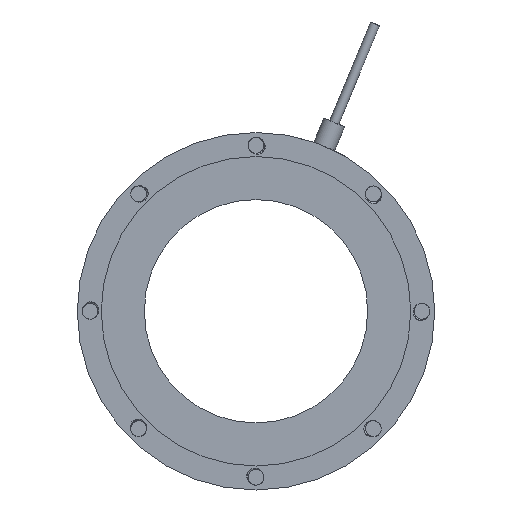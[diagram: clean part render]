
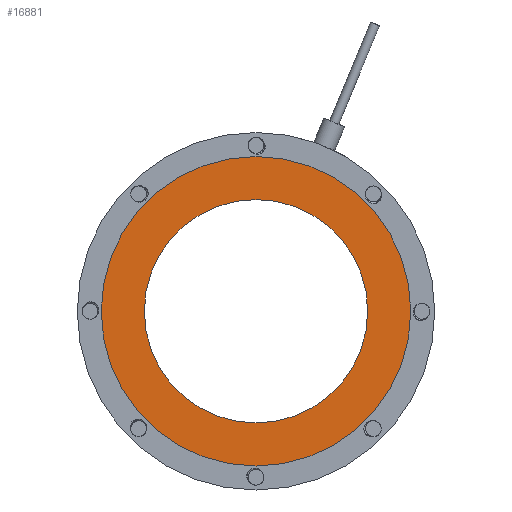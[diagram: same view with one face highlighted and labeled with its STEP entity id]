
A CAD part, left-side view. The second image highlights one B-rep face of the part: STEP entity #16881.
In plain terms, the highlighted planar face has unit normal (-1, 0, 0).
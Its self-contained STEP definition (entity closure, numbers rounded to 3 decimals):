
#19=CARTESIAN_POINT('',(-26.,0.,0.));
#20=DIRECTION('',(-1.,0.,0.));
#21=DIRECTION('',(0.,0.,-1.));
#22=AXIS2_PLACEMENT_3D('',#19,#20,#21);
#24=CARTESIAN_POINT('',(-26.,0.,0.));
#25=DIRECTION('',(1.,0.,0.));
#26=DIRECTION('',(0.,0.,-1.));
#27=AXIS2_PLACEMENT_3D('',#24,#25,#26);
#29=CARTESIAN_POINT('',(-26.,0.,0.));
#30=DIRECTION('',(1.,0.,0.));
#31=DIRECTION('',(0.,0.,-1.));
#32=AXIS2_PLACEMENT_3D('',#29,#30,#31);
#42=CARTESIAN_POINT('',(-26.,0.,0.));
#43=DIRECTION('',(-1.,0.,0.));
#44=DIRECTION('',(0.,0.,-1.));
#45=AXIS2_PLACEMENT_3D('',#42,#43,#44);
#15835=CARTESIAN_POINT('',(-26.,0.,-48.5));
#15837=VERTEX_POINT('',#15835);
#15838=CARTESIAN_POINT('',(-26.,0.,-35.));
#15840=VERTEX_POINT('',#15838);
#15859=CARTESIAN_POINT('',(-26.,0.,48.5));
#15861=VERTEX_POINT('',#15859);
#15862=CARTESIAN_POINT('',(-26.,0.,35.));
#15864=VERTEX_POINT('',#15862);
#16866=CARTESIAN_POINT('',(-26.,0.,0.));
#16867=DIRECTION('',(1.,0.,0.));
#16868=DIRECTION('',(0.,0.,1.));
#16869=AXIS2_PLACEMENT_3D('',#16866,#16867,#16868);
#16870=PLANE('',#16869);
#16871=ORIENTED_EDGE('',*,*,#16858,.F.);
#16872=ORIENTED_EDGE('',*,*,#16847,.T.);
#16873=EDGE_LOOP('',(#16871,#16872));
#16874=FACE_OUTER_BOUND('',#16873,.F.);
#16876=ORIENTED_EDGE('',*,*,#16875,.F.);
#16878=ORIENTED_EDGE('',*,*,#16877,.T.);
#16879=EDGE_LOOP('',(#16876,#16878));
#16880=FACE_BOUND('',#16879,.F.);
#16881=ADVANCED_FACE('',(#16874,#16880),#16870,.F.);
#23=CIRCLE('',#22,48.5);
#28=CIRCLE('',#27,48.5);
#33=CIRCLE('',#32,35.);
#46=CIRCLE('',#45,35.);
#16847=EDGE_CURVE('',#15837,#15861,#28,.T.);
#16858=EDGE_CURVE('',#15837,#15861,#23,.T.);
#16875=EDGE_CURVE('',#15840,#15864,#33,.T.);
#16877=EDGE_CURVE('',#15840,#15864,#46,.T.);
